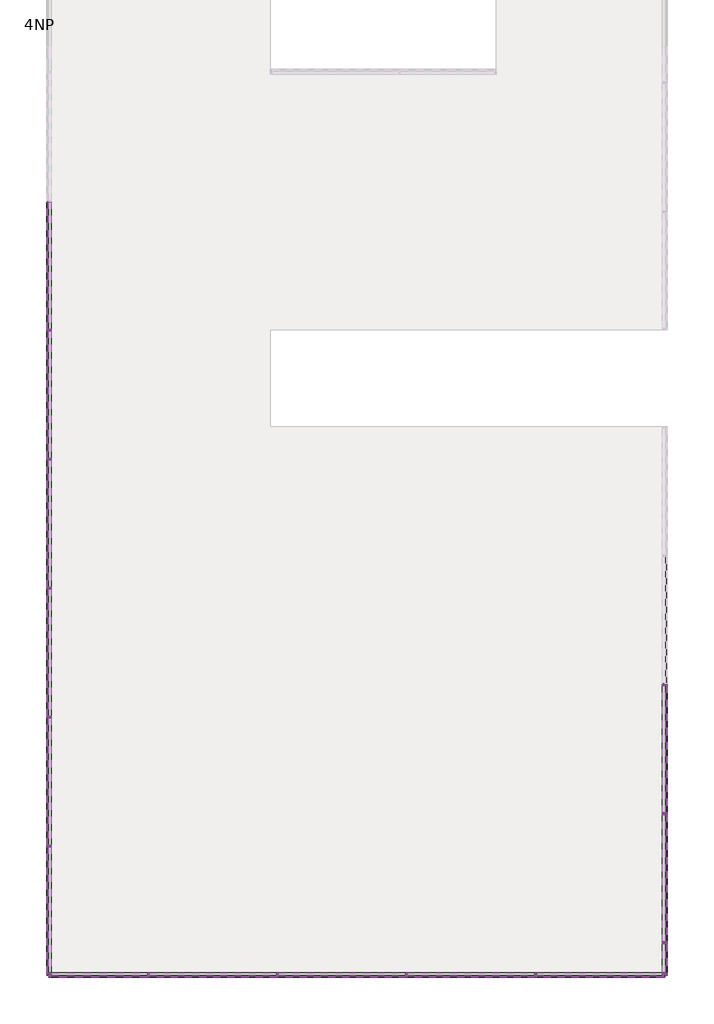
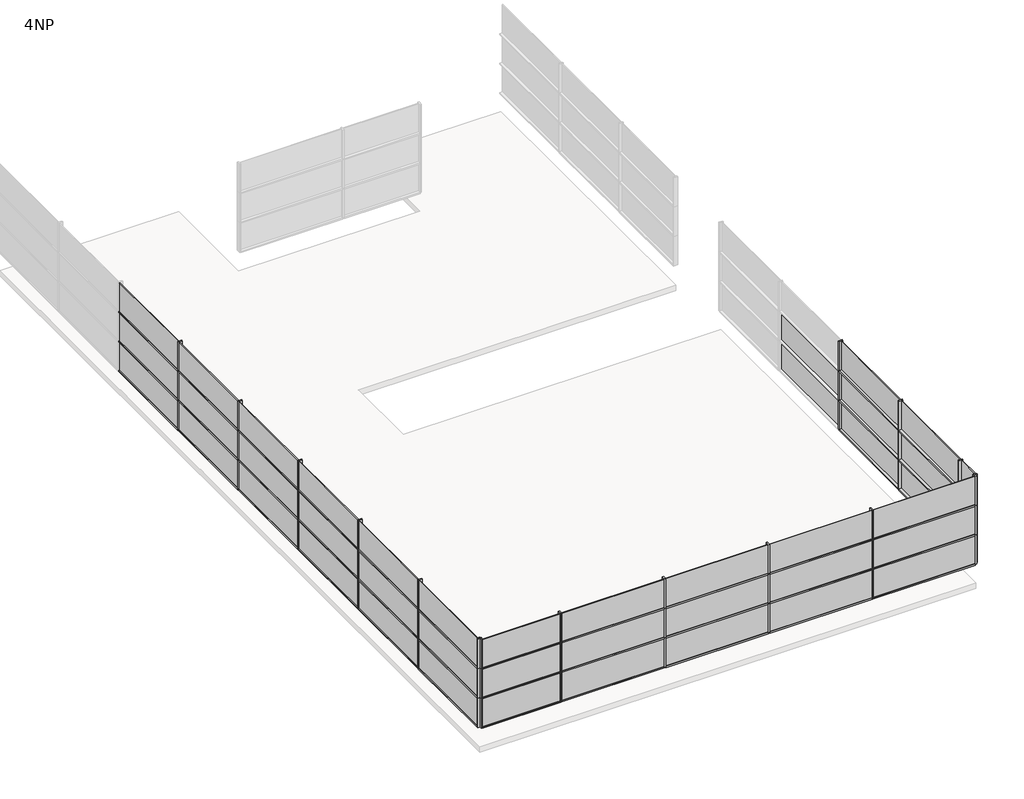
# One storey, part 1 of 2: 90 members, 44 plates.
"""IFC4 building model written with IfcOpenShell, lengths in millimetres."""

from ifc_helpers import new_model, si_unit, origin, place, context, project, spatial, transform, mapped, element, save
from components import rectangular_mullion_50_x_150mm_d99dc9be, rectangular_mullion_50_x_150mm_6588f46c, rectangular_mullion_50_x_150mm_a037c29c, rectangular_mullion_50_x_150mm_c2546fd4, rectangular_mullion_50_x_150mm_116cff39, rectangular_mullion_50_x_150mm_cd873b1a, system_panel_glazed_8e9402eb, system_panel_glazed_89ac83a7, system_panel_glazed_8c18451d, system_panel_glazed_2dc425e2

model = new_model("IFC4")

# Units and contexts
model_context = context("Model", 3, world=origin())
ifc_project = project(units=[si_unit("LENGTHUNIT", "METRE", prefix="MILLI")], contexts=[model_context])

# Site, building, storey
site = spatial("IfcSite", under=ifc_project)
building = spatial("IfcBuilding", under=site)
storey = spatial("IfcBuildingStorey", under=building, Name="4NP", Elevation=16000.0)

# Members
placement = place(None, origin())
rectangular_mullion_50_x_150mm_shape = rectangular_mullion_50_x_150mm_d99dc9be(model_context)
element("IfcMember", 1, ObjectType="Rectangular Mullion : 50 x 150mm", at=placement, inside=storey, context=model_context, shape_type="MappedRepresentation", body=[
    mapped(rectangular_mullion_50_x_150mm_shape, transform((13503.2660975, -14624.0160434, 18000.0), x_axis=(0.0, -1.0, 0.0), y_axis=(1.0, 0.0, 0.0), z_axis=(0.0, 0.0, 1.0))),
])
element("IfcMember", 2, ObjectType="Rectangular Mullion : 50 x 150mm", at=placement, inside=storey, context=model_context, shape_type="MappedRepresentation", body=[
    mapped(rectangular_mullion_50_x_150mm_shape, transform((13503.2660975, -14624.0160434, 19200.0), x_axis=(0.0, -1.0, 0.0), y_axis=(1.0, 0.0, 0.0), z_axis=(0.0, 0.0, 1.0))),
])
element("IfcMember", 3, ObjectType="Rectangular Mullion : 50 x 150mm", at=placement, inside=storey, context=model_context, shape_type="MappedRepresentation", body=[
    mapped(rectangular_mullion_50_x_150mm_shape, transform((13503.2660975, -14624.0160434, 20400.0), x_axis=(0.0, -1.0, 0.0), y_axis=(1.0, 0.0, 0.0), z_axis=(0.0, 0.0, 1.0))),
])
element("IfcMember", 4, ObjectType="Rectangular Mullion : 50 x 150mm", at=placement, inside=storey, context=model_context, shape_type="MappedRepresentation", body=[
    mapped(rectangular_mullion_50_x_150mm_shape, transform((13503.2660975, -18624.0160434, 18000.0), x_axis=(0.0, -1.0, 0.0), y_axis=(1.0, 0.0, 0.0), z_axis=(0.0, 0.0, 1.0))),
])
element("IfcMember", 5, ObjectType="Rectangular Mullion : 50 x 150mm", at=placement, inside=storey, context=model_context, shape_type="MappedRepresentation", body=[
    mapped(rectangular_mullion_50_x_150mm_shape, transform((13503.2660975, -18624.0160434, 19200.0), x_axis=(0.0, -1.0, 0.0), y_axis=(1.0, 0.0, 0.0), z_axis=(0.0, 0.0, 1.0))),
])
element("IfcMember", 6, ObjectType="Rectangular Mullion : 50 x 150mm", at=placement, inside=storey, context=model_context, shape_type="MappedRepresentation", body=[
    mapped(rectangular_mullion_50_x_150mm_shape, transform((13503.2660975, -18624.0160434, 20400.0), x_axis=(0.0, -1.0, 0.0), y_axis=(1.0, 0.0, 0.0), z_axis=(0.0, 0.0, 1.0))),
])
element("IfcMember", 7, ObjectType="Rectangular Mullion : 50 x 150mm", at=placement, inside=storey, context=model_context, shape_type="MappedRepresentation", body=[
    mapped(rectangular_mullion_50_x_150mm_shape, transform((13503.2660975, -22624.0160434, 18000.0), x_axis=(0.0, -1.0, 0.0), y_axis=(1.0, 0.0, 0.0), z_axis=(0.0, 0.0, 1.0))),
])
element("IfcMember", 8, ObjectType="Rectangular Mullion : 50 x 150mm", at=placement, inside=storey, context=model_context, shape_type="MappedRepresentation", body=[
    mapped(rectangular_mullion_50_x_150mm_shape, transform((13503.2660975, -22624.0160434, 19200.0), x_axis=(0.0, -1.0, 0.0), y_axis=(1.0, 0.0, 0.0), z_axis=(0.0, 0.0, 1.0))),
])
element("IfcMember", 9, ObjectType="Rectangular Mullion : 50 x 150mm", at=placement, inside=storey, context=model_context, shape_type="MappedRepresentation", body=[
    mapped(rectangular_mullion_50_x_150mm_shape, transform((13503.2660975, -22624.0160434, 20400.0), x_axis=(0.0, -1.0, 0.0), y_axis=(1.0, 0.0, 0.0), z_axis=(0.0, 0.0, 1.0))),
])
element("IfcMember", 10, ObjectType="Rectangular Mullion : 50 x 150mm", at=placement, inside=storey, context=model_context, shape_type="MappedRepresentation", body=[
    mapped(rectangular_mullion_50_x_150mm_shape, transform((9503.2660975, -23624.0160434, 18000.0), x_axis=(-1.0, 0.0, 0.0), y_axis=(0.0, -1.0, 0.0), z_axis=(0.0, 0.0, 1.0))),
])
element("IfcMember", 11, ObjectType="Rectangular Mullion : 50 x 150mm", at=placement, inside=storey, context=model_context, shape_type="MappedRepresentation", body=[
    mapped(rectangular_mullion_50_x_150mm_shape, transform((9503.2660975, -23624.0160434, 19200.0), x_axis=(-1.0, 0.0, 0.0), y_axis=(0.0, -1.0, 0.0), z_axis=(0.0, 0.0, 1.0))),
])
element("IfcMember", 12, ObjectType="Rectangular Mullion : 50 x 150mm", at=placement, inside=storey, context=model_context, shape_type="MappedRepresentation", body=[
    mapped(rectangular_mullion_50_x_150mm_shape, transform((9503.2660975, -23624.0160434, 20400.0), x_axis=(-1.0, 0.0, 0.0), y_axis=(0.0, -1.0, 0.0), z_axis=(0.0, 0.0, 1.0))),
])
element("IfcMember", 13, ObjectType="Rectangular Mullion : 50 x 150mm", at=placement, inside=storey, context=model_context, shape_type="MappedRepresentation", body=[
    mapped(rectangular_mullion_50_x_150mm_shape, transform((5503.2660975, -23624.0160434, 18000.0), x_axis=(-1.0, 0.0, 0.0), y_axis=(0.0, -1.0, 0.0), z_axis=(0.0, 0.0, 1.0))),
])
element("IfcMember", 14, ObjectType="Rectangular Mullion : 50 x 150mm", at=placement, inside=storey, context=model_context, shape_type="MappedRepresentation", body=[
    mapped(rectangular_mullion_50_x_150mm_shape, transform((5503.2660975, -23624.0160434, 19200.0), x_axis=(-1.0, 0.0, 0.0), y_axis=(0.0, -1.0, 0.0), z_axis=(0.0, 0.0, 1.0))),
])
element("IfcMember", 15, ObjectType="Rectangular Mullion : 50 x 150mm", at=placement, inside=storey, context=model_context, shape_type="MappedRepresentation", body=[
    mapped(rectangular_mullion_50_x_150mm_shape, transform((5503.2660975, -23624.0160434, 20400.0), x_axis=(-1.0, 0.0, 0.0), y_axis=(0.0, -1.0, 0.0), z_axis=(0.0, 0.0, 1.0))),
])
element("IfcMember", 16, ObjectType="Rectangular Mullion : 50 x 150mm", at=placement, inside=storey, context=model_context, shape_type="MappedRepresentation", body=[
    mapped(rectangular_mullion_50_x_150mm_shape, transform((1503.2660975, -23624.0160434, 18000.0), x_axis=(-1.0, 0.0, 0.0), y_axis=(0.0, -1.0, 0.0), z_axis=(0.0, 0.0, 1.0))),
])
element("IfcMember", 17, ObjectType="Rectangular Mullion : 50 x 150mm", at=placement, inside=storey, context=model_context, shape_type="MappedRepresentation", body=[
    mapped(rectangular_mullion_50_x_150mm_shape, transform((1503.2660975, -23624.0160434, 19200.0), x_axis=(-1.0, 0.0, 0.0), y_axis=(0.0, -1.0, 0.0), z_axis=(0.0, 0.0, 1.0))),
])
element("IfcMember", 18, ObjectType="Rectangular Mullion : 50 x 150mm", at=placement, inside=storey, context=model_context, shape_type="MappedRepresentation", body=[
    mapped(rectangular_mullion_50_x_150mm_shape, transform((1503.2660975, -23624.0160434, 20400.0), x_axis=(-1.0, 0.0, 0.0), y_axis=(0.0, -1.0, 0.0), z_axis=(0.0, 0.0, 1.0))),
])
element("IfcMember", 19, ObjectType="Rectangular Mullion : 50 x 150mm", at=placement, inside=storey, context=model_context, shape_type="MappedRepresentation", body=[
    mapped(rectangular_mullion_50_x_150mm_shape, transform((-2496.7339025, -23624.0160434, 18000.0), x_axis=(-1.0, 0.0, 0.0), y_axis=(0.0, -1.0, 0.0), z_axis=(0.0, 0.0, 1.0))),
])
element("IfcMember", 20, ObjectType="Rectangular Mullion : 50 x 150mm", at=placement, inside=storey, context=model_context, shape_type="MappedRepresentation", body=[
    mapped(rectangular_mullion_50_x_150mm_shape, transform((-2496.7339025, -23624.0160434, 19200.0), x_axis=(-1.0, 0.0, 0.0), y_axis=(0.0, -1.0, 0.0), z_axis=(0.0, 0.0, 1.0))),
])
element("IfcMember", 21, ObjectType="Rectangular Mullion : 50 x 150mm", at=placement, inside=storey, context=model_context, shape_type="MappedRepresentation", body=[
    mapped(rectangular_mullion_50_x_150mm_shape, transform((-2496.7339025, -23624.0160434, 20400.0), x_axis=(-1.0, 0.0, 0.0), y_axis=(0.0, -1.0, 0.0), z_axis=(0.0, 0.0, 1.0))),
])
element("IfcMember", 22, ObjectType="Rectangular Mullion : 50 x 150mm", at=placement, inside=storey, context=model_context, shape_type="MappedRepresentation", body=[
    mapped(rectangular_mullion_50_x_150mm_shape, transform((-5587.173406, -19624.0160434, 18000.0), x_axis=(0.0, 1.0, 0.0), y_axis=(-1.0, 0.0, 0.0), z_axis=(0.0, 0.0, 1.0))),
])
element("IfcMember", 23, ObjectType="Rectangular Mullion : 50 x 150mm", at=placement, inside=storey, context=model_context, shape_type="MappedRepresentation", body=[
    mapped(rectangular_mullion_50_x_150mm_shape, transform((-5587.173406, -19624.0160434, 19200.0), x_axis=(0.0, 1.0, 0.0), y_axis=(-1.0, 0.0, 0.0), z_axis=(0.0, 0.0, 1.0))),
])
element("IfcMember", 24, ObjectType="Rectangular Mullion : 50 x 150mm", at=placement, inside=storey, context=model_context, shape_type="MappedRepresentation", body=[
    mapped(rectangular_mullion_50_x_150mm_shape, transform((-5587.173406, -19624.0160434, 20400.0), x_axis=(0.0, 1.0, 0.0), y_axis=(-1.0, 0.0, 0.0), z_axis=(0.0, 0.0, 1.0))),
])
element("IfcMember", 25, ObjectType="Rectangular Mullion : 50 x 150mm", at=placement, inside=storey, context=model_context, shape_type="MappedRepresentation", body=[
    mapped(rectangular_mullion_50_x_150mm_shape, transform((-5587.173406, -15624.0160434, 18000.0), x_axis=(0.0, 1.0, 0.0), y_axis=(-1.0, 0.0, 0.0), z_axis=(0.0, 0.0, 1.0))),
])
element("IfcMember", 26, ObjectType="Rectangular Mullion : 50 x 150mm", at=placement, inside=storey, context=model_context, shape_type="MappedRepresentation", body=[
    mapped(rectangular_mullion_50_x_150mm_shape, transform((-5587.173406, -15624.0160434, 19200.0), x_axis=(0.0, 1.0, 0.0), y_axis=(-1.0, 0.0, 0.0), z_axis=(0.0, 0.0, 1.0))),
])
element("IfcMember", 27, ObjectType="Rectangular Mullion : 50 x 150mm", at=placement, inside=storey, context=model_context, shape_type="MappedRepresentation", body=[
    mapped(rectangular_mullion_50_x_150mm_shape, transform((-5587.173406, -15624.0160434, 20400.0), x_axis=(0.0, 1.0, 0.0), y_axis=(-1.0, 0.0, 0.0), z_axis=(0.0, 0.0, 1.0))),
])
element("IfcMember", 28, ObjectType="Rectangular Mullion : 50 x 150mm", at=placement, inside=storey, context=model_context, shape_type="MappedRepresentation", body=[
    mapped(rectangular_mullion_50_x_150mm_shape, transform((-5587.173406, -11624.0160434, 18000.0), x_axis=(0.0, 1.0, 0.0), y_axis=(-1.0, 0.0, 0.0), z_axis=(0.0, 0.0, 1.0))),
])
element("IfcMember", 29, ObjectType="Rectangular Mullion : 50 x 150mm", at=placement, inside=storey, context=model_context, shape_type="MappedRepresentation", body=[
    mapped(rectangular_mullion_50_x_150mm_shape, transform((-5587.173406, -11624.0160434, 19200.0), x_axis=(0.0, 1.0, 0.0), y_axis=(-1.0, 0.0, 0.0), z_axis=(0.0, 0.0, 1.0))),
])
element("IfcMember", 30, ObjectType="Rectangular Mullion : 50 x 150mm", at=placement, inside=storey, context=model_context, shape_type="MappedRepresentation", body=[
    mapped(rectangular_mullion_50_x_150mm_shape, transform((-5587.173406, -11624.0160434, 20400.0), x_axis=(0.0, 1.0, 0.0), y_axis=(-1.0, 0.0, 0.0), z_axis=(0.0, 0.0, 1.0))),
])
element("IfcMember", 31, ObjectType="Rectangular Mullion : 50 x 150mm", at=placement, inside=storey, context=model_context, shape_type="MappedRepresentation", body=[
    mapped(rectangular_mullion_50_x_150mm_shape, transform((-5587.173406, -7624.0160434, 18000.0), x_axis=(0.0, 1.0, 0.0), y_axis=(-1.0, 0.0, 0.0), z_axis=(0.0, 0.0, 1.0))),
])
element("IfcMember", 32, ObjectType="Rectangular Mullion : 50 x 150mm", at=placement, inside=storey, context=model_context, shape_type="MappedRepresentation", body=[
    mapped(rectangular_mullion_50_x_150mm_shape, transform((-5587.173406, -7624.0160434, 19200.0), x_axis=(0.0, 1.0, 0.0), y_axis=(-1.0, 0.0, 0.0), z_axis=(0.0, 0.0, 1.0))),
])
element("IfcMember", 33, ObjectType="Rectangular Mullion : 50 x 150mm", at=placement, inside=storey, context=model_context, shape_type="MappedRepresentation", body=[
    mapped(rectangular_mullion_50_x_150mm_shape, transform((-5587.173406, -7624.0160434, 20400.0), x_axis=(0.0, 1.0, 0.0), y_axis=(-1.0, 0.0, 0.0), z_axis=(0.0, 0.0, 1.0))),
])
element("IfcMember", 34, ObjectType="Rectangular Mullion : 50 x 150mm", at=placement, inside=storey, context=model_context, shape_type="MappedRepresentation", body=[
    mapped(rectangular_mullion_50_x_150mm_shape, transform((-5587.173406, -3624.0160434, 18000.0), x_axis=(0.0, 1.0, 0.0), y_axis=(-1.0, 0.0, 0.0), z_axis=(0.0, 0.0, 1.0))),
])
element("IfcMember", 35, ObjectType="Rectangular Mullion : 50 x 150mm", at=placement, inside=storey, context=model_context, shape_type="MappedRepresentation", body=[
    mapped(rectangular_mullion_50_x_150mm_shape, transform((-5587.173406, -3624.0160434, 19200.0), x_axis=(0.0, 1.0, 0.0), y_axis=(-1.0, 0.0, 0.0), z_axis=(0.0, 0.0, 1.0))),
])
element("IfcMember", 36, ObjectType="Rectangular Mullion : 50 x 150mm", at=placement, inside=storey, context=model_context, shape_type="MappedRepresentation", body=[
    mapped(rectangular_mullion_50_x_150mm_shape, transform((-5587.173406, -3624.0160434, 20400.0), x_axis=(0.0, 1.0, 0.0), y_axis=(-1.0, 0.0, 0.0), z_axis=(0.0, 0.0, 1.0))),
])
rectangular_mullion_50_x_150mm_2_shape = rectangular_mullion_50_x_150mm_6588f46c(model_context)
element("IfcMember", 37, ObjectType="Rectangular Mullion : 50 x 150mm", at=placement, inside=storey, context=model_context, shape_type="MappedRepresentation", body=[
    mapped(rectangular_mullion_50_x_150mm_2_shape, transform((13503.2660975, -23624.0160434, 18000.0), x_axis=(0.0, -1.0, 0.0), y_axis=(1.0, 0.0, 0.0), z_axis=(0.0, 0.0, 1.0))),
])
element("IfcMember", 38, ObjectType="Rectangular Mullion : 50 x 150mm", at=placement, inside=storey, context=model_context, shape_type="MappedRepresentation", body=[
    mapped(rectangular_mullion_50_x_150mm_2_shape, transform((13503.2660975, -23624.0160434, 19200.0), x_axis=(0.0, -1.0, 0.0), y_axis=(1.0, 0.0, 0.0), z_axis=(0.0, 0.0, 1.0))),
])
element("IfcMember", 39, ObjectType="Rectangular Mullion : 50 x 150mm", at=placement, inside=storey, context=model_context, shape_type="MappedRepresentation", body=[
    mapped(rectangular_mullion_50_x_150mm_2_shape, transform((13503.2660975, -23624.0160434, 20400.0), x_axis=(0.0, -1.0, 0.0), y_axis=(1.0, 0.0, 0.0), z_axis=(0.0, 0.0, 1.0))),
])
element("IfcMember", 40, ObjectType="Rectangular Mullion : 50 x 150mm", at=placement, inside=storey, context=model_context, shape_type="MappedRepresentation", body=[
    mapped(rectangular_mullion_50_x_150mm_2_shape, transform((-5587.173406, -23624.0160434, 18000.0), x_axis=(-1.0, 0.0, 0.0), y_axis=(0.0, -1.0, 0.0), z_axis=(0.0, 0.0, 1.0))),
])
element("IfcMember", 41, ObjectType="Rectangular Mullion : 50 x 150mm", at=placement, inside=storey, context=model_context, shape_type="MappedRepresentation", body=[
    mapped(rectangular_mullion_50_x_150mm_2_shape, transform((-5587.173406, -23624.0160434, 19200.0), x_axis=(-1.0, 0.0, 0.0), y_axis=(0.0, -1.0, 0.0), z_axis=(0.0, 0.0, 1.0))),
])
element("IfcMember", 42, ObjectType="Rectangular Mullion : 50 x 150mm", at=placement, inside=storey, context=model_context, shape_type="MappedRepresentation", body=[
    mapped(rectangular_mullion_50_x_150mm_2_shape, transform((-5587.173406, -23624.0160434, 20400.0), x_axis=(-1.0, 0.0, 0.0), y_axis=(0.0, -1.0, 0.0), z_axis=(0.0, 0.0, 1.0))),
])
rectangular_mullion_50_x_150mm_3_shape = rectangular_mullion_50_x_150mm_a037c29c(model_context)
element("IfcMember", 43, ObjectType="Rectangular Mullion : 50 x 150mm", at=placement, inside=storey, context=model_context, shape_type="MappedRepresentation", body=[
    mapped(rectangular_mullion_50_x_150mm_3_shape, transform((13503.2660975, -14649.0160434, 16800.0), x_axis=(0.0, 0.0, 1.0), y_axis=(1.0, 0.0, 0.0), z_axis=(0.0, 1.0, 0.0))),
])
element("IfcMember", 44, ObjectType="Rectangular Mullion : 50 x 150mm", at=placement, inside=storey, context=model_context, shape_type="MappedRepresentation", body=[
    mapped(rectangular_mullion_50_x_150mm_3_shape, transform((13503.2660975, -18649.0160434, 16800.0), x_axis=(0.0, 0.0, 1.0), y_axis=(1.0, 0.0, 0.0), z_axis=(0.0, 1.0, 0.0))),
])
element("IfcMember", 45, ObjectType="Rectangular Mullion : 50 x 150mm", at=placement, inside=storey, context=model_context, shape_type="MappedRepresentation", body=[
    mapped(rectangular_mullion_50_x_150mm_3_shape, transform((13503.2660975, -14649.0160434, 18000.0), x_axis=(0.0, 0.0, 1.0), y_axis=(1.0, 0.0, 0.0), z_axis=(0.0, 1.0, 0.0))),
])
element("IfcMember", 46, ObjectType="Rectangular Mullion : 50 x 150mm", at=placement, inside=storey, context=model_context, shape_type="MappedRepresentation", body=[
    mapped(rectangular_mullion_50_x_150mm_3_shape, transform((13503.2660975, -18649.0160434, 18000.0), x_axis=(0.0, 0.0, 1.0), y_axis=(1.0, 0.0, 0.0), z_axis=(0.0, 1.0, 0.0))),
])
element("IfcMember", 47, ObjectType="Rectangular Mullion : 50 x 150mm", at=placement, inside=storey, context=model_context, shape_type="MappedRepresentation", body=[
    mapped(rectangular_mullion_50_x_150mm_3_shape, transform((13503.2660975, -14649.0160434, 19200.0), x_axis=(0.0, 0.0, 1.0), y_axis=(1.0, 0.0, 0.0), z_axis=(0.0, 1.0, 0.0))),
])
element("IfcMember", 48, ObjectType="Rectangular Mullion : 50 x 150mm", at=placement, inside=storey, context=model_context, shape_type="MappedRepresentation", body=[
    mapped(rectangular_mullion_50_x_150mm_3_shape, transform((13503.2660975, -18649.0160434, 19200.0), x_axis=(0.0, 0.0, 1.0), y_axis=(1.0, 0.0, 0.0), z_axis=(0.0, 1.0, 0.0))),
])
element("IfcMember", 49, ObjectType="Rectangular Mullion : 50 x 150mm", at=placement, inside=storey, context=model_context, shape_type="MappedRepresentation", body=[
    mapped(rectangular_mullion_50_x_150mm_3_shape, transform((9478.2660975, -23624.0160434, 16800.0), x_axis=(0.0, 0.0, 1.0), y_axis=(0.0, -1.0, 0.0), z_axis=(1.0, 0.0, 0.0))),
])
element("IfcMember", 50, ObjectType="Rectangular Mullion : 50 x 150mm", at=placement, inside=storey, context=model_context, shape_type="MappedRepresentation", body=[
    mapped(rectangular_mullion_50_x_150mm_3_shape, transform((5478.2660975, -23624.0160434, 16800.0), x_axis=(0.0, 0.0, 1.0), y_axis=(0.0, -1.0, 0.0), z_axis=(1.0, 0.0, 0.0))),
])
element("IfcMember", 51, ObjectType="Rectangular Mullion : 50 x 150mm", at=placement, inside=storey, context=model_context, shape_type="MappedRepresentation", body=[
    mapped(rectangular_mullion_50_x_150mm_3_shape, transform((1478.2660975, -23624.0160434, 16800.0), x_axis=(0.0, 0.0, 1.0), y_axis=(0.0, -1.0, 0.0), z_axis=(1.0, 0.0, 0.0))),
])
element("IfcMember", 52, ObjectType="Rectangular Mullion : 50 x 150mm", at=placement, inside=storey, context=model_context, shape_type="MappedRepresentation", body=[
    mapped(rectangular_mullion_50_x_150mm_3_shape, transform((9478.2660975, -23624.0160434, 18000.0), x_axis=(0.0, 0.0, 1.0), y_axis=(0.0, -1.0, 0.0), z_axis=(1.0, 0.0, 0.0))),
])
element("IfcMember", 53, ObjectType="Rectangular Mullion : 50 x 150mm", at=placement, inside=storey, context=model_context, shape_type="MappedRepresentation", body=[
    mapped(rectangular_mullion_50_x_150mm_3_shape, transform((5478.2660975, -23624.0160434, 18000.0), x_axis=(0.0, 0.0, 1.0), y_axis=(0.0, -1.0, 0.0), z_axis=(1.0, 0.0, 0.0))),
])
element("IfcMember", 54, ObjectType="Rectangular Mullion : 50 x 150mm", at=placement, inside=storey, context=model_context, shape_type="MappedRepresentation", body=[
    mapped(rectangular_mullion_50_x_150mm_3_shape, transform((1478.2660975, -23624.0160434, 18000.0), x_axis=(0.0, 0.0, 1.0), y_axis=(0.0, -1.0, 0.0), z_axis=(1.0, 0.0, 0.0))),
])
element("IfcMember", 55, ObjectType="Rectangular Mullion : 50 x 150mm", at=placement, inside=storey, context=model_context, shape_type="MappedRepresentation", body=[
    mapped(rectangular_mullion_50_x_150mm_3_shape, transform((9478.2660975, -23624.0160434, 19200.0), x_axis=(0.0, 0.0, 1.0), y_axis=(0.0, -1.0, 0.0), z_axis=(1.0, 0.0, 0.0))),
])
element("IfcMember", 56, ObjectType="Rectangular Mullion : 50 x 150mm", at=placement, inside=storey, context=model_context, shape_type="MappedRepresentation", body=[
    mapped(rectangular_mullion_50_x_150mm_3_shape, transform((5478.2660975, -23624.0160434, 19200.0), x_axis=(0.0, 0.0, 1.0), y_axis=(0.0, -1.0, 0.0), z_axis=(1.0, 0.0, 0.0))),
])
element("IfcMember", 57, ObjectType="Rectangular Mullion : 50 x 150mm", at=placement, inside=storey, context=model_context, shape_type="MappedRepresentation", body=[
    mapped(rectangular_mullion_50_x_150mm_3_shape, transform((1478.2660975, -23624.0160434, 19200.0), x_axis=(0.0, 0.0, 1.0), y_axis=(0.0, -1.0, 0.0), z_axis=(1.0, 0.0, 0.0))),
])
element("IfcMember", 58, ObjectType="Rectangular Mullion : 50 x 150mm", at=placement, inside=storey, context=model_context, shape_type="MappedRepresentation", body=[
    mapped(rectangular_mullion_50_x_150mm_3_shape, transform((-5587.173406, -19599.0160434, 16800.0), x_axis=(0.0, 0.0, 1.0), y_axis=(-1.0, 0.0, 0.0), z_axis=(0.0, -1.0, 0.0))),
])
element("IfcMember", 59, ObjectType="Rectangular Mullion : 50 x 150mm", at=placement, inside=storey, context=model_context, shape_type="MappedRepresentation", body=[
    mapped(rectangular_mullion_50_x_150mm_3_shape, transform((-5587.173406, -15599.0160434, 16800.0), x_axis=(0.0, 0.0, 1.0), y_axis=(-1.0, 0.0, 0.0), z_axis=(0.0, -1.0, 0.0))),
])
element("IfcMember", 60, ObjectType="Rectangular Mullion : 50 x 150mm", at=placement, inside=storey, context=model_context, shape_type="MappedRepresentation", body=[
    mapped(rectangular_mullion_50_x_150mm_3_shape, transform((-5587.173406, -11599.0160434, 16800.0), x_axis=(0.0, 0.0, 1.0), y_axis=(-1.0, 0.0, 0.0), z_axis=(0.0, -1.0, 0.0))),
])
element("IfcMember", 61, ObjectType="Rectangular Mullion : 50 x 150mm", at=placement, inside=storey, context=model_context, shape_type="MappedRepresentation", body=[
    mapped(rectangular_mullion_50_x_150mm_3_shape, transform((-5587.173406, -7599.0160434, 16800.0), x_axis=(0.0, 0.0, 1.0), y_axis=(-1.0, 0.0, 0.0), z_axis=(0.0, -1.0, 0.0))),
])
element("IfcMember", 62, ObjectType="Rectangular Mullion : 50 x 150mm", at=placement, inside=storey, context=model_context, shape_type="MappedRepresentation", body=[
    mapped(rectangular_mullion_50_x_150mm_3_shape, transform((-5587.173406, -3599.0160434, 16800.0), x_axis=(0.0, 0.0, 1.0), y_axis=(-1.0, 0.0, 0.0), z_axis=(0.0, -1.0, 0.0))),
])
element("IfcMember", 63, ObjectType="Rectangular Mullion : 50 x 150mm", at=placement, inside=storey, context=model_context, shape_type="MappedRepresentation", body=[
    mapped(rectangular_mullion_50_x_150mm_3_shape, transform((-5587.173406, -19599.0160434, 18000.0), x_axis=(0.0, 0.0, 1.0), y_axis=(-1.0, 0.0, 0.0), z_axis=(0.0, -1.0, 0.0))),
])
element("IfcMember", 64, ObjectType="Rectangular Mullion : 50 x 150mm", at=placement, inside=storey, context=model_context, shape_type="MappedRepresentation", body=[
    mapped(rectangular_mullion_50_x_150mm_3_shape, transform((-5587.173406, -15599.0160434, 18000.0), x_axis=(0.0, 0.0, 1.0), y_axis=(-1.0, 0.0, 0.0), z_axis=(0.0, -1.0, 0.0))),
])
element("IfcMember", 65, ObjectType="Rectangular Mullion : 50 x 150mm", at=placement, inside=storey, context=model_context, shape_type="MappedRepresentation", body=[
    mapped(rectangular_mullion_50_x_150mm_3_shape, transform((-5587.173406, -11599.0160434, 18000.0), x_axis=(0.0, 0.0, 1.0), y_axis=(-1.0, 0.0, 0.0), z_axis=(0.0, -1.0, 0.0))),
])
element("IfcMember", 66, ObjectType="Rectangular Mullion : 50 x 150mm", at=placement, inside=storey, context=model_context, shape_type="MappedRepresentation", body=[
    mapped(rectangular_mullion_50_x_150mm_3_shape, transform((-5587.173406, -7599.0160434, 18000.0), x_axis=(0.0, 0.0, 1.0), y_axis=(-1.0, 0.0, 0.0), z_axis=(0.0, -1.0, 0.0))),
])
element("IfcMember", 67, ObjectType="Rectangular Mullion : 50 x 150mm", at=placement, inside=storey, context=model_context, shape_type="MappedRepresentation", body=[
    mapped(rectangular_mullion_50_x_150mm_3_shape, transform((-5587.173406, -3599.0160434, 18000.0), x_axis=(0.0, 0.0, 1.0), y_axis=(-1.0, 0.0, 0.0), z_axis=(0.0, -1.0, 0.0))),
])
element("IfcMember", 68, ObjectType="Rectangular Mullion : 50 x 150mm", at=placement, inside=storey, context=model_context, shape_type="MappedRepresentation", body=[
    mapped(rectangular_mullion_50_x_150mm_3_shape, transform((-5587.173406, -19599.0160434, 19200.0), x_axis=(0.0, 0.0, 1.0), y_axis=(-1.0, 0.0, 0.0), z_axis=(0.0, -1.0, 0.0))),
])
element("IfcMember", 69, ObjectType="Rectangular Mullion : 50 x 150mm", at=placement, inside=storey, context=model_context, shape_type="MappedRepresentation", body=[
    mapped(rectangular_mullion_50_x_150mm_3_shape, transform((-5587.173406, -15599.0160434, 19200.0), x_axis=(0.0, 0.0, 1.0), y_axis=(-1.0, 0.0, 0.0), z_axis=(0.0, -1.0, 0.0))),
])
element("IfcMember", 70, ObjectType="Rectangular Mullion : 50 x 150mm", at=placement, inside=storey, context=model_context, shape_type="MappedRepresentation", body=[
    mapped(rectangular_mullion_50_x_150mm_3_shape, transform((-5587.173406, -11599.0160434, 19200.0), x_axis=(0.0, 0.0, 1.0), y_axis=(-1.0, 0.0, 0.0), z_axis=(0.0, -1.0, 0.0))),
])
element("IfcMember", 71, ObjectType="Rectangular Mullion : 50 x 150mm", at=placement, inside=storey, context=model_context, shape_type="MappedRepresentation", body=[
    mapped(rectangular_mullion_50_x_150mm_3_shape, transform((-5587.173406, -7599.0160434, 19200.0), x_axis=(0.0, 0.0, 1.0), y_axis=(-1.0, 0.0, 0.0), z_axis=(0.0, -1.0, 0.0))),
])
element("IfcMember", 72, ObjectType="Rectangular Mullion : 50 x 150mm", at=placement, inside=storey, context=model_context, shape_type="MappedRepresentation", body=[
    mapped(rectangular_mullion_50_x_150mm_3_shape, transform((-5587.173406, -3599.0160434, 19200.0), x_axis=(0.0, 0.0, 1.0), y_axis=(-1.0, 0.0, 0.0), z_axis=(0.0, -1.0, 0.0))),
])
rectangular_mullion_50_x_150mm_4_shape = rectangular_mullion_50_x_150mm_c2546fd4(model_context)
element("IfcMember", 73, ObjectType="Rectangular Mullion : 50 x 150mm", at=placement, inside=storey, context=model_context, shape_type="MappedRepresentation", body=[
    mapped(rectangular_mullion_50_x_150mm_4_shape, transform((13453.2660975, -23624.0160434, 16800.0), x_axis=(0.0, 0.0, 1.0), y_axis=(0.0, -1.0, 0.0), z_axis=(1.0, 0.0, 0.0))),
])
element("IfcMember", 74, ObjectType="Rectangular Mullion : 50 x 150mm", at=placement, inside=storey, context=model_context, shape_type="MappedRepresentation", body=[
    mapped(rectangular_mullion_50_x_150mm_4_shape, transform((13453.2660975, -23624.0160434, 18000.0), x_axis=(0.0, 0.0, 1.0), y_axis=(0.0, -1.0, 0.0), z_axis=(1.0, 0.0, 0.0))),
])
element("IfcMember", 75, ObjectType="Rectangular Mullion : 50 x 150mm", at=placement, inside=storey, context=model_context, shape_type="MappedRepresentation", body=[
    mapped(rectangular_mullion_50_x_150mm_4_shape, transform((13453.2660975, -23624.0160434, 19200.0), x_axis=(0.0, 0.0, 1.0), y_axis=(0.0, -1.0, 0.0), z_axis=(1.0, 0.0, 0.0))),
])
element("IfcMember", 76, ObjectType="Rectangular Mullion : 50 x 150mm", at=placement, inside=storey, context=model_context, shape_type="MappedRepresentation", body=[
    mapped(rectangular_mullion_50_x_150mm_4_shape, transform((-5587.173406, -23574.0160434, 16800.0), x_axis=(0.0, 0.0, 1.0), y_axis=(-1.0, 0.0, 0.0), z_axis=(0.0, -1.0, 0.0))),
])
element("IfcMember", 77, ObjectType="Rectangular Mullion : 50 x 150mm", at=placement, inside=storey, context=model_context, shape_type="MappedRepresentation", body=[
    mapped(rectangular_mullion_50_x_150mm_4_shape, transform((-5587.173406, -23574.0160434, 18000.0), x_axis=(0.0, 0.0, 1.0), y_axis=(-1.0, 0.0, 0.0), z_axis=(0.0, -1.0, 0.0))),
])
element("IfcMember", 78, ObjectType="Rectangular Mullion : 50 x 150mm", at=placement, inside=storey, context=model_context, shape_type="MappedRepresentation", body=[
    mapped(rectangular_mullion_50_x_150mm_4_shape, transform((-5587.173406, -23574.0160434, 19200.0), x_axis=(0.0, 0.0, 1.0), y_axis=(-1.0, 0.0, 0.0), z_axis=(0.0, -1.0, 0.0))),
])
element("IfcMember", 79, ObjectType="Rectangular Mullion : 50 x 150mm", at=placement, inside=storey, context=model_context, shape_type="MappedRepresentation", body=[
    mapped(rectangular_mullion_50_x_150mm_2_shape, transform((13503.2660975, -23624.0160434, 16800.0), x_axis=(1.0, 0.0, 0.0), y_axis=(0.0, -1.0, 0.0), z_axis=(0.0, 0.0, -1.0))),
])
element("IfcMember", 80, ObjectType="Rectangular Mullion : 50 x 150mm", at=placement, inside=storey, context=model_context, shape_type="MappedRepresentation", body=[
    mapped(rectangular_mullion_50_x_150mm_2_shape, transform((13503.2660975, -23624.0160434, 18000.0), x_axis=(1.0, 0.0, 0.0), y_axis=(0.0, -1.0, 0.0), z_axis=(0.0, 0.0, -1.0))),
])
element("IfcMember", 81, ObjectType="Rectangular Mullion : 50 x 150mm", at=placement, inside=storey, context=model_context, shape_type="MappedRepresentation", body=[
    mapped(rectangular_mullion_50_x_150mm_2_shape, transform((13503.2660975, -23624.0160434, 19200.0), x_axis=(1.0, 0.0, 0.0), y_axis=(0.0, -1.0, 0.0), z_axis=(0.0, 0.0, -1.0))),
])
element("IfcMember", 82, ObjectType="Rectangular Mullion : 50 x 150mm", at=placement, inside=storey, context=model_context, shape_type="MappedRepresentation", body=[
    mapped(rectangular_mullion_50_x_150mm_2_shape, transform((-5587.173406, -23624.0160434, 16800.0), x_axis=(0.0, -1.0, 0.0), y_axis=(-1.0, 0.0, 0.0), z_axis=(0.0, 0.0, -1.0))),
])
element("IfcMember", 83, ObjectType="Rectangular Mullion : 50 x 150mm", at=placement, inside=storey, context=model_context, shape_type="MappedRepresentation", body=[
    mapped(rectangular_mullion_50_x_150mm_2_shape, transform((-5587.173406, -23624.0160434, 18000.0), x_axis=(0.0, -1.0, 0.0), y_axis=(-1.0, 0.0, 0.0), z_axis=(0.0, 0.0, -1.0))),
])
element("IfcMember", 84, ObjectType="Rectangular Mullion : 50 x 150mm", at=placement, inside=storey, context=model_context, shape_type="MappedRepresentation", body=[
    mapped(rectangular_mullion_50_x_150mm_2_shape, transform((-5587.173406, -23624.0160434, 19200.0), x_axis=(0.0, -1.0, 0.0), y_axis=(-1.0, 0.0, 0.0), z_axis=(0.0, 0.0, -1.0))),
])
rectangular_mullion_50_x_150mm_5_shape = rectangular_mullion_50_x_150mm_116cff39(model_context)
element("IfcMember", 85, ObjectType="Rectangular Mullion : 50 x 150mm", at=placement, inside=storey, context=model_context, shape_type="MappedRepresentation", body=[
    mapped(rectangular_mullion_50_x_150mm_5_shape, transform((13503.2660975, -22649.0160434, 16800.0), x_axis=(0.0, 0.0, 1.0), y_axis=(1.0, 0.0, 0.0), z_axis=(0.0, 1.0, 0.0))),
])
element("IfcMember", 86, ObjectType="Rectangular Mullion : 50 x 150mm", at=placement, inside=storey, context=model_context, shape_type="MappedRepresentation", body=[
    mapped(rectangular_mullion_50_x_150mm_5_shape, transform((13503.2660975, -22649.0160434, 18000.0), x_axis=(0.0, 0.0, 1.0), y_axis=(1.0, 0.0, 0.0), z_axis=(0.0, 1.0, 0.0))),
])
element("IfcMember", 87, ObjectType="Rectangular Mullion : 50 x 150mm", at=placement, inside=storey, context=model_context, shape_type="MappedRepresentation", body=[
    mapped(rectangular_mullion_50_x_150mm_5_shape, transform((13503.2660975, -22649.0160434, 19200.0), x_axis=(0.0, 0.0, 1.0), y_axis=(1.0, 0.0, 0.0), z_axis=(0.0, 1.0, 0.0))),
])
rectangular_mullion_50_x_150mm_6_shape = rectangular_mullion_50_x_150mm_cd873b1a(model_context)
element("IfcMember", 88, ObjectType="Rectangular Mullion : 50 x 150mm", at=placement, inside=storey, context=model_context, shape_type="MappedRepresentation", body=[
    mapped(rectangular_mullion_50_x_150mm_6_shape, transform((-2521.7339025, -23624.0160434, 16800.0), x_axis=(0.0, 0.0, 1.0), y_axis=(0.0, -1.0, 0.0), z_axis=(1.0, 0.0, 0.0))),
])
element("IfcMember", 89, ObjectType="Rectangular Mullion : 50 x 150mm", at=placement, inside=storey, context=model_context, shape_type="MappedRepresentation", body=[
    mapped(rectangular_mullion_50_x_150mm_6_shape, transform((-2521.7339025, -23624.0160434, 18000.0), x_axis=(0.0, 0.0, 1.0), y_axis=(0.0, -1.0, 0.0), z_axis=(1.0, 0.0, 0.0))),
])
element("IfcMember", 90, ObjectType="Rectangular Mullion : 50 x 150mm", at=placement, inside=storey, context=model_context, shape_type="MappedRepresentation", body=[
    mapped(rectangular_mullion_50_x_150mm_6_shape, transform((-2521.7339025, -23624.0160434, 19200.0), x_axis=(0.0, 0.0, 1.0), y_axis=(0.0, -1.0, 0.0), z_axis=(1.0, 0.0, 0.0))),
])

# Plates
system_panel_glazed_shape = system_panel_glazed_8e9402eb(model_context)
element("IfcPlate", 91, ObjectType="System Panel : Glazed", at=placement, inside=storey, context=model_context, shape_type="MappedRepresentation", body=[
    mapped(system_panel_glazed_shape, transform((-5587.173406, -21611.5160434, 16825.0), x_axis=(0.0, 1.0, 0.0), y_axis=(-1.0, 0.0, 0.0), z_axis=(0.0, 0.0, 1.0))),
])
element("IfcPlate", 92, ObjectType="System Panel : Glazed", at=placement, inside=storey, context=model_context, shape_type="MappedRepresentation", body=[
    mapped(system_panel_glazed_shape, transform((-5587.173406, -21611.5160434, 18025.0), x_axis=(0.0, 1.0, 0.0), y_axis=(-1.0, 0.0, 0.0), z_axis=(0.0, 0.0, 1.0))),
])
element("IfcPlate", 93, ObjectType="System Panel : Glazed", at=placement, inside=storey, context=model_context, shape_type="MappedRepresentation", body=[
    mapped(system_panel_glazed_shape, transform((-5587.173406, -21611.5160434, 19225.0), x_axis=(0.0, 1.0, 0.0), y_axis=(-1.0, 0.0, 0.0), z_axis=(0.0, 0.0, 1.0))),
])
element("IfcPlate", 94, ObjectType="System Panel : Glazed", at=placement, inside=storey, context=model_context, shape_type="MappedRepresentation", body=[
    mapped(system_panel_glazed_shape, transform((11490.7660975, -23624.0160434, 16825.0), x_axis=(-1.0, 0.0, 0.0), y_axis=(0.0, -1.0, 0.0), z_axis=(0.0, 0.0, 1.0))),
])
element("IfcPlate", 95, ObjectType="System Panel : Glazed", at=placement, inside=storey, context=model_context, shape_type="MappedRepresentation", body=[
    mapped(system_panel_glazed_shape, transform((11490.7660975, -23624.0160434, 18025.0), x_axis=(-1.0, 0.0, 0.0), y_axis=(0.0, -1.0, 0.0), z_axis=(0.0, 0.0, 1.0))),
])
element("IfcPlate", 96, ObjectType="System Panel : Glazed", at=placement, inside=storey, context=model_context, shape_type="MappedRepresentation", body=[
    mapped(system_panel_glazed_shape, transform((11490.7660975, -23624.0160434, 19225.0), x_axis=(-1.0, 0.0, 0.0), y_axis=(0.0, -1.0, 0.0), z_axis=(0.0, 0.0, 1.0))),
])
system_panel_glazed_2_shape = system_panel_glazed_89ac83a7(model_context)
element("IfcPlate", 97, ObjectType="System Panel : Glazed", at=placement, inside=storey, context=model_context, shape_type="MappedRepresentation", body=[
    mapped(system_panel_glazed_2_shape, transform((-5587.173406, -17624.0160434, 16825.0), x_axis=(0.0, 1.0, 0.0), y_axis=(-1.0, 0.0, 0.0), z_axis=(0.0, 0.0, 1.0))),
])
element("IfcPlate", 98, ObjectType="System Panel : Glazed", at=placement, inside=storey, context=model_context, shape_type="MappedRepresentation", body=[
    mapped(system_panel_glazed_2_shape, transform((-5587.173406, -13624.0160434, 16825.0), x_axis=(0.0, 1.0, 0.0), y_axis=(-1.0, 0.0, 0.0), z_axis=(0.0, 0.0, 1.0))),
])
element("IfcPlate", 99, ObjectType="System Panel : Glazed", at=placement, inside=storey, context=model_context, shape_type="MappedRepresentation", body=[
    mapped(system_panel_glazed_2_shape, transform((-5587.173406, -9624.0160434, 16825.0), x_axis=(0.0, 1.0, 0.0), y_axis=(-1.0, 0.0, 0.0), z_axis=(0.0, 0.0, 1.0))),
])
element("IfcPlate", 100, ObjectType="System Panel : Glazed", at=placement, inside=storey, context=model_context, shape_type="MappedRepresentation", body=[
    mapped(system_panel_glazed_2_shape, transform((-5587.173406, -5624.0160434, 16825.0), x_axis=(0.0, 1.0, 0.0), y_axis=(-1.0, 0.0, 0.0), z_axis=(0.0, 0.0, 1.0))),
])
element("IfcPlate", 101, ObjectType="System Panel : Glazed", at=placement, inside=storey, context=model_context, shape_type="MappedRepresentation", body=[
    mapped(system_panel_glazed_2_shape, transform((-5587.173406, -1624.0160434, 16825.0), x_axis=(0.0, 1.0, 0.0), y_axis=(-1.0, 0.0, 0.0), z_axis=(0.0, 0.0, 1.0))),
])
element("IfcPlate", 102, ObjectType="System Panel : Glazed", at=placement, inside=storey, context=model_context, shape_type="MappedRepresentation", body=[
    mapped(system_panel_glazed_2_shape, transform((-5587.173406, -17624.0160434, 18025.0), x_axis=(0.0, 1.0, 0.0), y_axis=(-1.0, 0.0, 0.0), z_axis=(0.0, 0.0, 1.0))),
])
element("IfcPlate", 103, ObjectType="System Panel : Glazed", at=placement, inside=storey, context=model_context, shape_type="MappedRepresentation", body=[
    mapped(system_panel_glazed_2_shape, transform((-5587.173406, -13624.0160434, 18025.0), x_axis=(0.0, 1.0, 0.0), y_axis=(-1.0, 0.0, 0.0), z_axis=(0.0, 0.0, 1.0))),
])
element("IfcPlate", 104, ObjectType="System Panel : Glazed", at=placement, inside=storey, context=model_context, shape_type="MappedRepresentation", body=[
    mapped(system_panel_glazed_2_shape, transform((-5587.173406, -9624.0160434, 18025.0), x_axis=(0.0, 1.0, 0.0), y_axis=(-1.0, 0.0, 0.0), z_axis=(0.0, 0.0, 1.0))),
])
element("IfcPlate", 105, ObjectType="System Panel : Glazed", at=placement, inside=storey, context=model_context, shape_type="MappedRepresentation", body=[
    mapped(system_panel_glazed_2_shape, transform((-5587.173406, -5624.0160434, 18025.0), x_axis=(0.0, 1.0, 0.0), y_axis=(-1.0, 0.0, 0.0), z_axis=(0.0, 0.0, 1.0))),
])
element("IfcPlate", 106, ObjectType="System Panel : Glazed", at=placement, inside=storey, context=model_context, shape_type="MappedRepresentation", body=[
    mapped(system_panel_glazed_2_shape, transform((-5587.173406, -1624.0160434, 18025.0), x_axis=(0.0, 1.0, 0.0), y_axis=(-1.0, 0.0, 0.0), z_axis=(0.0, 0.0, 1.0))),
])
element("IfcPlate", 107, ObjectType="System Panel : Glazed", at=placement, inside=storey, context=model_context, shape_type="MappedRepresentation", body=[
    mapped(system_panel_glazed_2_shape, transform((-5587.173406, -17624.0160434, 19225.0), x_axis=(0.0, 1.0, 0.0), y_axis=(-1.0, 0.0, 0.0), z_axis=(0.0, 0.0, 1.0))),
])
element("IfcPlate", 108, ObjectType="System Panel : Glazed", at=placement, inside=storey, context=model_context, shape_type="MappedRepresentation", body=[
    mapped(system_panel_glazed_2_shape, transform((-5587.173406, -13624.0160434, 19225.0), x_axis=(0.0, 1.0, 0.0), y_axis=(-1.0, 0.0, 0.0), z_axis=(0.0, 0.0, 1.0))),
])
element("IfcPlate", 109, ObjectType="System Panel : Glazed", at=placement, inside=storey, context=model_context, shape_type="MappedRepresentation", body=[
    mapped(system_panel_glazed_2_shape, transform((-5587.173406, -9624.0160434, 19225.0), x_axis=(0.0, 1.0, 0.0), y_axis=(-1.0, 0.0, 0.0), z_axis=(0.0, 0.0, 1.0))),
])
element("IfcPlate", 110, ObjectType="System Panel : Glazed", at=placement, inside=storey, context=model_context, shape_type="MappedRepresentation", body=[
    mapped(system_panel_glazed_2_shape, transform((-5587.173406, -5624.0160434, 19225.0), x_axis=(0.0, 1.0, 0.0), y_axis=(-1.0, 0.0, 0.0), z_axis=(0.0, 0.0, 1.0))),
])
element("IfcPlate", 111, ObjectType="System Panel : Glazed", at=placement, inside=storey, context=model_context, shape_type="MappedRepresentation", body=[
    mapped(system_panel_glazed_2_shape, transform((-5587.173406, -1624.0160434, 19225.0), x_axis=(0.0, 1.0, 0.0), y_axis=(-1.0, 0.0, 0.0), z_axis=(0.0, 0.0, 1.0))),
])
element("IfcPlate", 112, ObjectType="System Panel : Glazed", at=placement, inside=storey, context=model_context, shape_type="MappedRepresentation", body=[
    mapped(system_panel_glazed_2_shape, transform((7503.2660975, -23624.0160434, 16825.0), x_axis=(-1.0, 0.0, 0.0), y_axis=(0.0, -1.0, 0.0), z_axis=(0.0, 0.0, 1.0))),
])
element("IfcPlate", 113, ObjectType="System Panel : Glazed", at=placement, inside=storey, context=model_context, shape_type="MappedRepresentation", body=[
    mapped(system_panel_glazed_2_shape, transform((3503.2660975, -23624.0160434, 16825.0), x_axis=(-1.0, 0.0, 0.0), y_axis=(0.0, -1.0, 0.0), z_axis=(0.0, 0.0, 1.0))),
])
element("IfcPlate", 114, ObjectType="System Panel : Glazed", at=placement, inside=storey, context=model_context, shape_type="MappedRepresentation", body=[
    mapped(system_panel_glazed_2_shape, transform((-496.7339025, -23624.0160434, 16825.0), x_axis=(-1.0, 0.0, 0.0), y_axis=(0.0, -1.0, 0.0), z_axis=(0.0, 0.0, 1.0))),
])
element("IfcPlate", 115, ObjectType="System Panel : Glazed", at=placement, inside=storey, context=model_context, shape_type="MappedRepresentation", body=[
    mapped(system_panel_glazed_2_shape, transform((7503.2660975, -23624.0160434, 18025.0), x_axis=(-1.0, 0.0, 0.0), y_axis=(0.0, -1.0, 0.0), z_axis=(0.0, 0.0, 1.0))),
])
element("IfcPlate", 116, ObjectType="System Panel : Glazed", at=placement, inside=storey, context=model_context, shape_type="MappedRepresentation", body=[
    mapped(system_panel_glazed_2_shape, transform((3503.2660975, -23624.0160434, 18025.0), x_axis=(-1.0, 0.0, 0.0), y_axis=(0.0, -1.0, 0.0), z_axis=(0.0, 0.0, 1.0))),
])
element("IfcPlate", 117, ObjectType="System Panel : Glazed", at=placement, inside=storey, context=model_context, shape_type="MappedRepresentation", body=[
    mapped(system_panel_glazed_2_shape, transform((-496.7339025, -23624.0160434, 18025.0), x_axis=(-1.0, 0.0, 0.0), y_axis=(0.0, -1.0, 0.0), z_axis=(0.0, 0.0, 1.0))),
])
element("IfcPlate", 118, ObjectType="System Panel : Glazed", at=placement, inside=storey, context=model_context, shape_type="MappedRepresentation", body=[
    mapped(system_panel_glazed_2_shape, transform((7503.2660975, -23624.0160434, 19225.0), x_axis=(-1.0, 0.0, 0.0), y_axis=(0.0, -1.0, 0.0), z_axis=(0.0, 0.0, 1.0))),
])
element("IfcPlate", 119, ObjectType="System Panel : Glazed", at=placement, inside=storey, context=model_context, shape_type="MappedRepresentation", body=[
    mapped(system_panel_glazed_2_shape, transform((3503.2660975, -23624.0160434, 19225.0), x_axis=(-1.0, 0.0, 0.0), y_axis=(0.0, -1.0, 0.0), z_axis=(0.0, 0.0, 1.0))),
])
element("IfcPlate", 120, ObjectType="System Panel : Glazed", at=placement, inside=storey, context=model_context, shape_type="MappedRepresentation", body=[
    mapped(system_panel_glazed_2_shape, transform((-496.7339025, -23624.0160434, 19225.0), x_axis=(-1.0, 0.0, 0.0), y_axis=(0.0, -1.0, 0.0), z_axis=(0.0, 0.0, 1.0))),
])
element("IfcPlate", 121, ObjectType="System Panel : Glazed", at=placement, inside=storey, context=model_context, shape_type="MappedRepresentation", body=[
    mapped(system_panel_glazed_2_shape, transform((13503.2660975, -12624.0160434, 16825.0), x_axis=(0.0, -1.0, 0.0), y_axis=(1.0, 0.0, 0.0), z_axis=(0.0, 0.0, 1.0))),
])
element("IfcPlate", 122, ObjectType="System Panel : Glazed", at=placement, inside=storey, context=model_context, shape_type="MappedRepresentation", body=[
    mapped(system_panel_glazed_2_shape, transform((13503.2660975, -16624.0160434, 16825.0), x_axis=(0.0, -1.0, 0.0), y_axis=(1.0, 0.0, 0.0), z_axis=(0.0, 0.0, 1.0))),
])
element("IfcPlate", 123, ObjectType="System Panel : Glazed", at=placement, inside=storey, context=model_context, shape_type="MappedRepresentation", body=[
    mapped(system_panel_glazed_2_shape, transform((13503.2660975, -20624.0160434, 16825.0), x_axis=(0.0, -1.0, 0.0), y_axis=(1.0, 0.0, 0.0), z_axis=(0.0, 0.0, 1.0))),
])
element("IfcPlate", 124, ObjectType="System Panel : Glazed", at=placement, inside=storey, context=model_context, shape_type="MappedRepresentation", body=[
    mapped(system_panel_glazed_2_shape, transform((13503.2660975, -12624.0160434, 18025.0), x_axis=(0.0, -1.0, 0.0), y_axis=(1.0, 0.0, 0.0), z_axis=(0.0, 0.0, 1.0))),
])
element("IfcPlate", 125, ObjectType="System Panel : Glazed", at=placement, inside=storey, context=model_context, shape_type="MappedRepresentation", body=[
    mapped(system_panel_glazed_2_shape, transform((13503.2660975, -16624.0160434, 18025.0), x_axis=(0.0, -1.0, 0.0), y_axis=(1.0, 0.0, 0.0), z_axis=(0.0, 0.0, 1.0))),
])
element("IfcPlate", 126, ObjectType="System Panel : Glazed", at=placement, inside=storey, context=model_context, shape_type="MappedRepresentation", body=[
    mapped(system_panel_glazed_2_shape, transform((13503.2660975, -20624.0160434, 18025.0), x_axis=(0.0, -1.0, 0.0), y_axis=(1.0, 0.0, 0.0), z_axis=(0.0, 0.0, 1.0))),
])
element("IfcPlate", 127, ObjectType="System Panel : Glazed", at=placement, inside=storey, context=model_context, shape_type="MappedRepresentation", body=[
    mapped(system_panel_glazed_2_shape, transform((13503.2660975, -16624.0160434, 19225.0), x_axis=(0.0, -1.0, 0.0), y_axis=(1.0, 0.0, 0.0), z_axis=(0.0, 0.0, 1.0))),
])
element("IfcPlate", 128, ObjectType="System Panel : Glazed", at=placement, inside=storey, context=model_context, shape_type="MappedRepresentation", body=[
    mapped(system_panel_glazed_2_shape, transform((13503.2660975, -20624.0160434, 19225.0), x_axis=(0.0, -1.0, 0.0), y_axis=(1.0, 0.0, 0.0), z_axis=(0.0, 0.0, 1.0))),
])
system_panel_glazed_3_shape = system_panel_glazed_8c18451d(model_context)
element("IfcPlate", 129, ObjectType="System Panel : Glazed", at=placement, inside=storey, context=model_context, shape_type="MappedRepresentation", body=[
    mapped(system_panel_glazed_3_shape, transform((13503.2660975, -23111.5160434, 16825.0), x_axis=(0.0, -1.0, 0.0), y_axis=(1.0, 0.0, 0.0), z_axis=(0.0, 0.0, 1.0))),
])
element("IfcPlate", 130, ObjectType="System Panel : Glazed", at=placement, inside=storey, context=model_context, shape_type="MappedRepresentation", body=[
    mapped(system_panel_glazed_3_shape, transform((13503.2660975, -23111.5160434, 18025.0), x_axis=(0.0, -1.0, 0.0), y_axis=(1.0, 0.0, 0.0), z_axis=(0.0, 0.0, 1.0))),
])
element("IfcPlate", 131, ObjectType="System Panel : Glazed", at=placement, inside=storey, context=model_context, shape_type="MappedRepresentation", body=[
    mapped(system_panel_glazed_3_shape, transform((13503.2660975, -23111.5160434, 19225.0), x_axis=(0.0, -1.0, 0.0), y_axis=(1.0, 0.0, 0.0), z_axis=(0.0, 0.0, 1.0))),
])
system_panel_glazed_4_shape = system_panel_glazed_2dc425e2(model_context)
element("IfcPlate", 132, ObjectType="System Panel : Glazed", at=placement, inside=storey, context=model_context, shape_type="MappedRepresentation", body=[
    mapped(system_panel_glazed_4_shape, transform((-4029.4536543, -23624.0160434, 16825.0), x_axis=(-1.0, 0.0, 0.0), y_axis=(0.0, -1.0, 0.0), z_axis=(0.0, 0.0, 1.0))),
])
element("IfcPlate", 133, ObjectType="System Panel : Glazed", at=placement, inside=storey, context=model_context, shape_type="MappedRepresentation", body=[
    mapped(system_panel_glazed_4_shape, transform((-4029.4536543, -23624.0160434, 18025.0), x_axis=(-1.0, 0.0, 0.0), y_axis=(0.0, -1.0, 0.0), z_axis=(0.0, 0.0, 1.0))),
])
element("IfcPlate", 134, ObjectType="System Panel : Glazed", at=placement, inside=storey, context=model_context, shape_type="MappedRepresentation", body=[
    mapped(system_panel_glazed_4_shape, transform((-4029.4536543, -23624.0160434, 19225.0), x_axis=(-1.0, 0.0, 0.0), y_axis=(0.0, -1.0, 0.0), z_axis=(0.0, 0.0, 1.0))),
])

save(model, "model.ifc")
